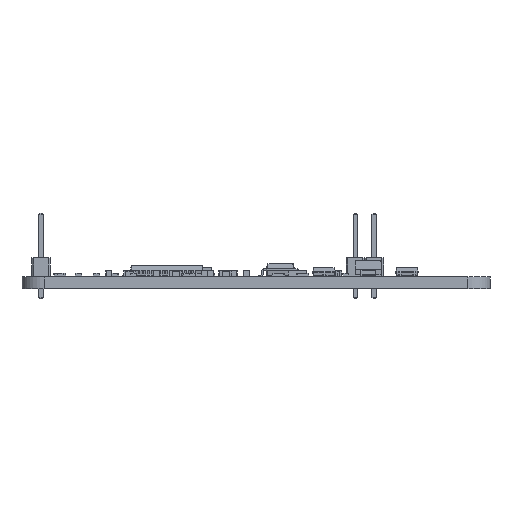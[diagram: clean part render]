
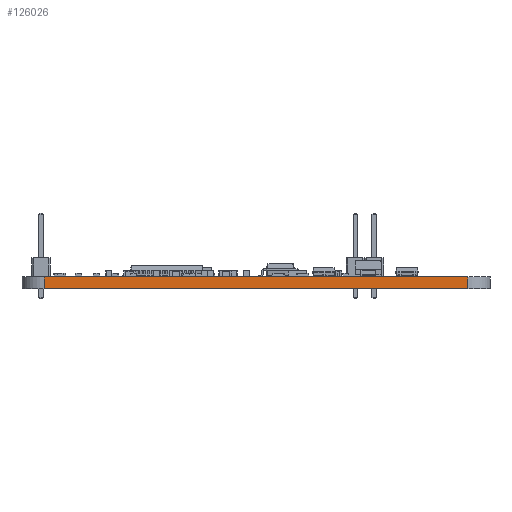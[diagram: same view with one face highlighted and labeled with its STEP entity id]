
A CAD part, left-side view. The second image highlights one B-rep face of the part: STEP entity #126026.
In plain terms, the highlighted planar face has unit normal (-1, 0, 0).
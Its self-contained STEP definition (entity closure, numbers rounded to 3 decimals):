
#126026 = ADVANCED_FACE('',(#126027),#126041,.F.);
#126027 = FACE_BOUND('',#126028,.F.);
#126028 = EDGE_LOOP('',(#126029,#126064,#126092,#126120));
#126029 = ORIENTED_EDGE('',*,*,#126030,.T.);
#126030 = EDGE_CURVE('',#126031,#126033,#126035,.T.);
#126031 = VERTEX_POINT('',#126032);
#126032 = CARTESIAN_POINT('',(102.5,-92.8,0.));
#126033 = VERTEX_POINT('',#126034);
#126034 = CARTESIAN_POINT('',(102.5,-92.8,1.6));
#126035 = SURFACE_CURVE('',#126036,(#126040,#126052),.PCURVE_S1.);
#126036 = LINE('',#126037,#126038);
#126037 = CARTESIAN_POINT('',(102.5,-92.8,0.));
#126038 = VECTOR('',#126039,1.);
#126039 = DIRECTION('',(0.,0.,1.));
#126040 = PCURVE('',#126041,#126046);
#126041 = PLANE('',#126042);
#126042 = AXIS2_PLACEMENT_3D('',#126043,#126044,#126045);
#126043 = CARTESIAN_POINT('',(102.5,-92.8,0.));
#126044 = DIRECTION('',(1.,0.,-0.));
#126045 = DIRECTION('',(0.,-1.,0.));
#126046 = DEFINITIONAL_REPRESENTATION('',(#126047),#126051);
#126047 = LINE('',#126048,#126049);
#126048 = CARTESIAN_POINT('',(0.,0.));
#126049 = VECTOR('',#126050,1.);
#126050 = DIRECTION('',(0.,-1.));
#126051 = ( GEOMETRIC_REPRESENTATION_CONTEXT(2) 
PARAMETRIC_REPRESENTATION_CONTEXT() REPRESENTATION_CONTEXT('2D SPACE',''
  ) );
#126052 = PCURVE('',#126053,#126058);
#126053 = CYLINDRICAL_SURFACE('',#126054,3.);
#126054 = AXIS2_PLACEMENT_3D('',#126055,#126056,#126057);
#126055 = CARTESIAN_POINT('',(105.5,-92.8,0.));
#126056 = DIRECTION('',(-0.,-0.,-1.));
#126057 = DIRECTION('',(1.,0.,-0.));
#126058 = DEFINITIONAL_REPRESENTATION('',(#126059),#126063);
#126059 = LINE('',#126060,#126061);
#126060 = CARTESIAN_POINT('',(-3.142,0.));
#126061 = VECTOR('',#126062,1.);
#126062 = DIRECTION('',(-0.,-1.));
#126063 = ( GEOMETRIC_REPRESENTATION_CONTEXT(2) 
PARAMETRIC_REPRESENTATION_CONTEXT() REPRESENTATION_CONTEXT('2D SPACE',''
  ) );
#126064 = ORIENTED_EDGE('',*,*,#126065,.T.);
#126065 = EDGE_CURVE('',#126033,#126066,#126068,.T.);
#126066 = VERTEX_POINT('',#126067);
#126067 = CARTESIAN_POINT('',(102.5,-150.,1.6));
#126068 = SURFACE_CURVE('',#126069,(#126073,#126080),.PCURVE_S1.);
#126069 = LINE('',#126070,#126071);
#126070 = CARTESIAN_POINT('',(102.5,-92.8,1.6));
#126071 = VECTOR('',#126072,1.);
#126072 = DIRECTION('',(0.,-1.,0.));
#126073 = PCURVE('',#126041,#126074);
#126074 = DEFINITIONAL_REPRESENTATION('',(#126075),#126079);
#126075 = LINE('',#126076,#126077);
#126076 = CARTESIAN_POINT('',(0.,-1.6));
#126077 = VECTOR('',#126078,1.);
#126078 = DIRECTION('',(1.,0.));
#126079 = ( GEOMETRIC_REPRESENTATION_CONTEXT(2) 
PARAMETRIC_REPRESENTATION_CONTEXT() REPRESENTATION_CONTEXT('2D SPACE',''
  ) );
#126080 = PCURVE('',#126081,#126086);
#126081 = PLANE('',#126082);
#126082 = AXIS2_PLACEMENT_3D('',#126083,#126084,#126085);
#126083 = CARTESIAN_POINT('',(158.,-121.4,1.6));
#126084 = DIRECTION('',(0.,0.,1.));
#126085 = DIRECTION('',(1.,0.,-0.));
#126086 = DEFINITIONAL_REPRESENTATION('',(#126087),#126091);
#126087 = LINE('',#126088,#126089);
#126088 = CARTESIAN_POINT('',(-55.5,28.6));
#126089 = VECTOR('',#126090,1.);
#126090 = DIRECTION('',(0.,-1.));
#126091 = ( GEOMETRIC_REPRESENTATION_CONTEXT(2) 
PARAMETRIC_REPRESENTATION_CONTEXT() REPRESENTATION_CONTEXT('2D SPACE',''
  ) );
#126092 = ORIENTED_EDGE('',*,*,#126093,.F.);
#126093 = EDGE_CURVE('',#126094,#126066,#126096,.T.);
#126094 = VERTEX_POINT('',#126095);
#126095 = CARTESIAN_POINT('',(102.5,-150.,0.));
#126096 = SURFACE_CURVE('',#126097,(#126101,#126108),.PCURVE_S1.);
#126097 = LINE('',#126098,#126099);
#126098 = CARTESIAN_POINT('',(102.5,-150.,0.));
#126099 = VECTOR('',#126100,1.);
#126100 = DIRECTION('',(0.,0.,1.));
#126101 = PCURVE('',#126041,#126102);
#126102 = DEFINITIONAL_REPRESENTATION('',(#126103),#126107);
#126103 = LINE('',#126104,#126105);
#126104 = CARTESIAN_POINT('',(57.2,0.));
#126105 = VECTOR('',#126106,1.);
#126106 = DIRECTION('',(0.,-1.));
#126107 = ( GEOMETRIC_REPRESENTATION_CONTEXT(2) 
PARAMETRIC_REPRESENTATION_CONTEXT() REPRESENTATION_CONTEXT('2D SPACE',''
  ) );
#126108 = PCURVE('',#126109,#126114);
#126109 = CYLINDRICAL_SURFACE('',#126110,3.);
#126110 = AXIS2_PLACEMENT_3D('',#126111,#126112,#126113);
#126111 = CARTESIAN_POINT('',(105.5,-150.,0.));
#126112 = DIRECTION('',(-0.,-0.,-1.));
#126113 = DIRECTION('',(1.,0.,-0.));
#126114 = DEFINITIONAL_REPRESENTATION('',(#126115),#126119);
#126115 = LINE('',#126116,#126117);
#126116 = CARTESIAN_POINT('',(-3.142,0.));
#126117 = VECTOR('',#126118,1.);
#126118 = DIRECTION('',(-0.,-1.));
#126119 = ( GEOMETRIC_REPRESENTATION_CONTEXT(2) 
PARAMETRIC_REPRESENTATION_CONTEXT() REPRESENTATION_CONTEXT('2D SPACE',''
  ) );
#126120 = ORIENTED_EDGE('',*,*,#126121,.F.);
#126121 = EDGE_CURVE('',#126031,#126094,#126122,.T.);
#126122 = SURFACE_CURVE('',#126123,(#126127,#126134),.PCURVE_S1.);
#126123 = LINE('',#126124,#126125);
#126124 = CARTESIAN_POINT('',(102.5,-92.8,0.));
#126125 = VECTOR('',#126126,1.);
#126126 = DIRECTION('',(0.,-1.,0.));
#126127 = PCURVE('',#126041,#126128);
#126128 = DEFINITIONAL_REPRESENTATION('',(#126129),#126133);
#126129 = LINE('',#126130,#126131);
#126130 = CARTESIAN_POINT('',(0.,0.));
#126131 = VECTOR('',#126132,1.);
#126132 = DIRECTION('',(1.,0.));
#126133 = ( GEOMETRIC_REPRESENTATION_CONTEXT(2) 
PARAMETRIC_REPRESENTATION_CONTEXT() REPRESENTATION_CONTEXT('2D SPACE',''
  ) );
#126134 = PCURVE('',#126135,#126140);
#126135 = PLANE('',#126136);
#126136 = AXIS2_PLACEMENT_3D('',#126137,#126138,#126139);
#126137 = CARTESIAN_POINT('',(158.,-121.4,0.));
#126138 = DIRECTION('',(0.,0.,1.));
#126139 = DIRECTION('',(1.,0.,-0.));
#126140 = DEFINITIONAL_REPRESENTATION('',(#126141),#126145);
#126141 = LINE('',#126142,#126143);
#126142 = CARTESIAN_POINT('',(-55.5,28.6));
#126143 = VECTOR('',#126144,1.);
#126144 = DIRECTION('',(0.,-1.));
#126145 = ( GEOMETRIC_REPRESENTATION_CONTEXT(2) 
PARAMETRIC_REPRESENTATION_CONTEXT() REPRESENTATION_CONTEXT('2D SPACE',''
  ) );
